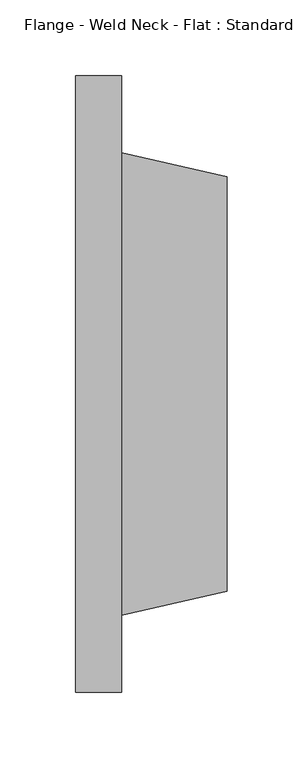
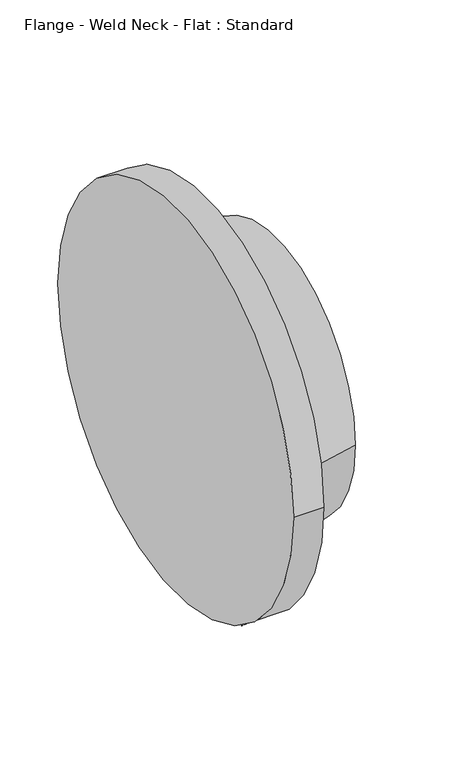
"""IFC4 building model written with IfcOpenShell, lengths in millimetres: valve geometry, Flange - Weld Neck - Flat : Standard."""

from ifc_helpers import new_model, si_unit, frame, origin, place, context, project, spatial, polyline, circle_curve, source, transform, mapped, element, save
from ifc_brep_helpers import plane_surface, cylinder_surface, revolved_surface, advanced_brep


def flange_weld_neck_flat_standard_03837194(model_context):
    return source(origin(), model_context, "Body", "AdvancedBrep", [
        advanced_brep(
        [(1.5875, -203.2, 0.0), (1.5875, 203.2, 0.0), (31.75, -203.2, 0.0), (31.75, 203.2, 0.0), (31.75, 152.4, 0.0), (31.75, -152.4, 0.0), (101.6, -136.525, 0.0), (101.6, 136.525, 0.0)],
        [
            (0, 1, circle_curve(frame((1.5875, 0.0, 0.0), z_axis=(-1.0, 0.0, 0.0), x_axis=(0.0, 1.0, 0.0)), 203.2)),
            (1, 0, circle_curve(frame((1.5875, 0.0, 0.0), z_axis=(-1.0, 0.0, 0.0), x_axis=(0.0, 1.0, 0.0)), 203.2)),
            (2, 3, circle_curve(frame((31.75, 0.0, 0.0), z_axis=(1.0, 0.0, 0.0), x_axis=(0.0, 1.0, 0.0)), 203.2)),
            (3, 2, circle_curve(frame((31.75, 0.0, 0.0), z_axis=(1.0, 0.0, 0.0), x_axis=(0.0, 1.0, 0.0)), 203.2)),
            (4, 5, circle_curve(frame((31.75, 0.0, 0.0), z_axis=(-1.0, 0.0, 0.0), x_axis=(0.0, -1.0, 0.0)), 152.4)),
            (5, 4, circle_curve(frame((31.75, 0.0, 0.0), z_axis=(-1.0, 0.0, 0.0), x_axis=(0.0, 1.0, 0.0)), 152.4)),
            (0, 2),
            (3, 1),
            (6, 7, circle_curve(frame((101.6, 0.0, 0.0), z_axis=(1.0, 0.0, 0.0), x_axis=(0.0, -1.0, 0.0)), 136.525)),
            (7, 6, circle_curve(frame((101.6, 0.0, 0.0), z_axis=(1.0, 0.0, 0.0), x_axis=(0.0, 1.0, 0.0)), 136.525)),
            (6, 5),
            (4, 7),
        ],
        [
            plane_surface(frame((1.5875, 0.0, 0.0), z_axis=(-1.0, 0.0, 0.0), x_axis=(0.0, 0.0, 1.0))),
            plane_surface(frame((31.75, 0.0, 0.0), z_axis=(1.0, 0.0, 0.0), x_axis=(0.0, 0.0, 1.0))),
            cylinder_surface(frame((1.5875, 0.0, 0.0), z_axis=(-1.0, 0.0, 0.0), x_axis=(0.0, 1.0, 0.0)), 203.2),
            plane_surface(frame((101.6, 0.0, 0.0), z_axis=(1.0, 0.0, 0.0), x_axis=(0.0, 0.0, -1.0))),
            revolved_surface(polyline([(101.60000000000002, -136.525, 0.0), (31.75, -152.4, 0.0)]), (702.31, 0.0, 0.0), (-1.0, 0.0, 0.0)),
            revolved_surface(polyline([(101.60000000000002, 136.525, 0.0), (31.75, 152.4, 0.0)]), (702.31, 0.0, 0.0), (-1.0, 0.0, 0.0)),
        ],
        [
            (0, [[1, 2]]),
            (1, [[3, 4], [5, 6]]),
            (2, [[-1, 7, -4, 8]]),
            (2, [[-2, -8, -3, -7]]),
            (3, [[9, 10]]),
            (4, [[-9, 11, -5, 12]]),
            (5, [[-10, -12, -6, -11]]),
        ],
    ),
    ])


if __name__ == "__main__":
    model = new_model("IFC4")
    model_context = context("Model", 3, world=origin())
    ifc_project = project(units=[si_unit("LENGTHUNIT", "METRE", prefix="MILLI")], contexts=[model_context])
    site = spatial("IfcSite", under=ifc_project)
    building = spatial("IfcBuilding", under=site)
    placement = place(None, origin())
    flange_weld_neck_flat_standard_shape = flange_weld_neck_flat_standard_03837194(model_context)
    element("IfcValve", 1, ObjectType="Flange - Weld Neck - Flat : Standard", at=placement, inside=building, context=model_context, shape_type="MappedRepresentation", body=[
        mapped(flange_weld_neck_flat_standard_shape, transform((0.0, 0.0, 0.0), x_axis=(1.0, 0.0, 0.0), y_axis=(0.0, 1.0, 0.0), z_axis=(0.0, 0.0, 1.0))),
    ])
    save(model, "model.ifc")
